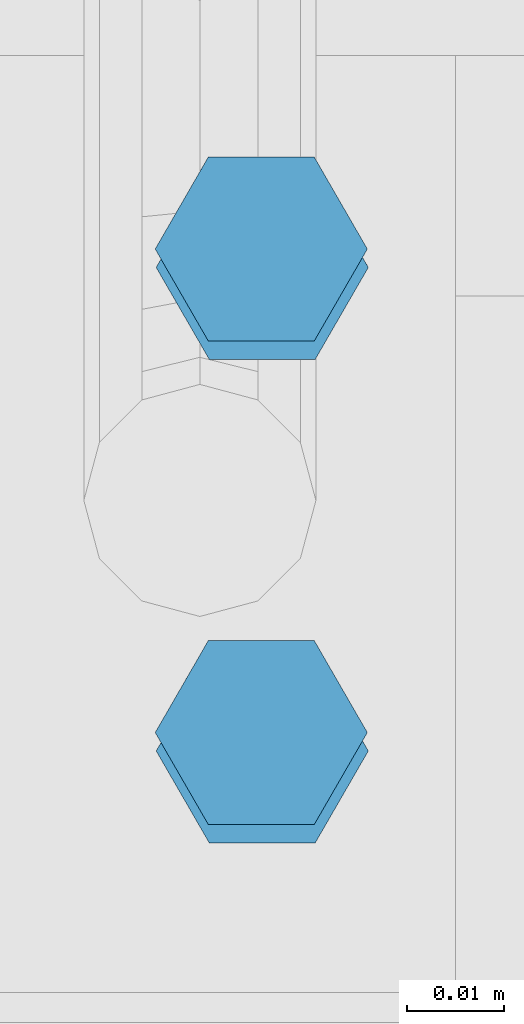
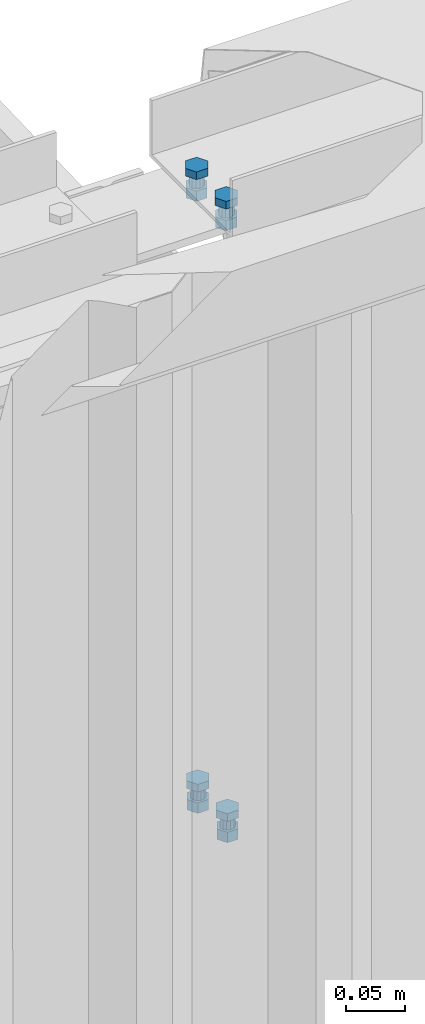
# One storey, part 15 of 18: 2 mechanical fasteners.
"""IFC2X3 building model written with IfcOpenShell, lengths in millimetres."""

import ifcopenshell
import ifcopenshell.guid

model = None  # the IFC model being written
_history = None  # IfcOwnerHistory: only IFC2X3 demands one
_inside = {}  # id of a spatial element -> (the spatial element, [elements in it])
_under = {}  # id of a project, library or spatial element -> (it, [spatial elements below it])
_declared = {}  # id of a project -> (the project, [libraries it declares])
_typed = {}  # id of a type object -> (the type object, [elements of that type])
_made_of = {}  # id of a material, layer set ... -> (it, [elements and type objects made of it])


def new_model(schema):
    """Start an empty IFC model of exactly this schema.

    Asked for "IFC4X3", IfcOpenShell would pick the latest addendum, in which some entities
    have other attributes; the version numbers below select the first issue.
    IFC2X3 requires an IfcOwnerHistory on every rooted entity: one is made here for all.
    """
    global model, _history
    if schema == "IFC4X3":
        model = ifcopenshell.file(schema_version=(4, 3, 0, 0))
    else:
        model = ifcopenshell.file(schema=schema)
    _inside.clear()
    _under.clear()
    _declared.clear()
    _typed.clear()
    _made_of.clear()
    _history = None
    if model.schema == "IFC2X3":
        org = make("IfcOrganization", Name="unknown")
        user = make(
            "IfcPersonAndOrganization",
            ThePerson=make("IfcPerson", FamilyName="unknown"),
            TheOrganization=org,
        )
        app = make(
            "IfcApplication",
            ApplicationDeveloper=org,
            Version="unknown",
            ApplicationFullName="unknown",
            ApplicationIdentifier="unknown",
        )
        _history = make(
            "IfcOwnerHistory",
            OwningUser=user,
            OwningApplication=app,
            ChangeAction="ADDED",
            CreationDate=0,
        )
    return model


def make(cls, **values):
    """One entity of the class cls with the attributes given. An attribute that is None is left unset."""
    return model.create_entity(
        cls, **{name: value for name, value in values.items() if value is not None}
    )


def rooted(cls, **values):
    """An entity with a GlobalId (a new one), such as an element, a storey or a relation."""
    return make(cls, GlobalId=ifcopenshell.guid.new(), OwnerHistory=_history, **values)


def si_unit(unit_type, name, prefix=None):
    """IfcSIUnit, for example si_unit("LENGTHUNIT", "METRE", prefix="MILLI")."""
    return make("IfcSIUnit", UnitType=unit_type, Prefix=prefix, Name=name)


def assignment(units):
    """IfcUnitAssignment: the units of a project."""
    return None if units is None else make("IfcUnitAssignment", Units=units)


def point(xyz):
    """IfcCartesianPoint."""
    return None if xyz is None else make("IfcCartesianPoint", Coordinates=xyz)


def direction(xyz):
    """IfcDirection."""
    return None if xyz is None else make("IfcDirection", DirectionRatios=xyz)


def frame(location, z_axis=None, x_axis=None):
    """IfcAxis2Placement3D, a coordinate frame: its origin and axes. An axis left out is left unset."""
    return make(
        "IfcAxis2Placement3D",
        Location=point(location),
        Axis=direction(z_axis),
        RefDirection=direction(x_axis),
    )


def origin_with_axes():
    """The frame at (0, 0, 0) with the z axis (0, 0, 1) and the x axis (1, 0, 0) written out."""
    return frame((0.0, 0.0, 0.0), z_axis=(0.0, 0.0, 1.0), x_axis=(1.0, 0.0, 0.0))


def place(relative_to, where):
    """IfcLocalPlacement: puts the frame where relative to a parent placement (None: the world)."""
    return make(
        "IfcLocalPlacement", PlacementRelTo=relative_to, RelativePlacement=where
    )


def context(
    kind, dimensions, precision=None, world=None, true_north=None, identifier=None
):
    """IfcGeometricRepresentationContext, for example the 3D "Model" context."""
    return make(
        "IfcGeometricRepresentationContext",
        ContextIdentifier=identifier,
        ContextType=kind,
        CoordinateSpaceDimension=dimensions,
        Precision=precision,
        WorldCoordinateSystem=world,
        TrueNorth=true_north,
    )


def subcontext(parent, identifier, kind, view, scale=None):
    """IfcGeometricRepresentationSubContext, for example "Body" below "Model"."""
    return make(
        "IfcGeometricRepresentationSubContext",
        ContextIdentifier=identifier,
        ContextType=kind,
        ParentContext=parent,
        TargetScale=scale,
        TargetView=view,
    )


def project(units=None, contexts=None):
    """IfcProject with its units and contexts."""
    return rooted(
        "IfcProject",
        Name="project",
        RepresentationContexts=contexts,
        UnitsInContext=assignment(units),
    )


def spatial(cls, under=None, at=None, **own):
    """A site, building, storey or space (cls), placed at a placement, below another one or the project."""
    s = rooted(cls, ObjectPlacement=at, **own)
    if under is not None:
        _under.setdefault(under.id(), (under, []))[1].append(s)
    return s


def faces_of(points, faces, orient=None, outer=None):
    """IfcFace entities. A face is a list of loops; a loop is a list of indices into points, from 0.

    orient and outer hold one flag for each loop. By default every Orientation is true, the
    first loop of a face is its IfcFaceOuterBound and the others are IfcFaceBound.
    """
    made = []
    for i, loops in enumerate(faces):
        bounds = []
        for j, loop in enumerate(loops):
            is_outer = j == 0 if outer is None else outer[i][j]
            bounds.append(
                make(
                    "IfcFaceOuterBound" if is_outer else "IfcFaceBound",
                    Bound=make("IfcPolyLoop", Polygon=[points[k] for k in loop]),
                    Orientation=True if orient is None else orient[i][j],
                )
            )
        made.append(make("IfcFace", Bounds=bounds))
    return made


def faceted_brep(points, faces, orient=None, outer=None, voids=None):
    """IfcFacetedBrep: a solid bounded by flat faces; with voids (closed shells), ...WithVoids."""
    shared = [point(p) for p in points]
    hull = make("IfcClosedShell", CfsFaces=faces_of(shared, faces, orient, outer))
    if voids is None:
        return make("IfcFacetedBrep", Outer=hull)
    return make(
        "IfcFacetedBrepWithVoids",
        Outer=hull,
        Voids=[
            make(cls, CfsFaces=faces_of(shared, fs, o, b)) for cls, fs, o, b in voids
        ],
    )


def shape(context_of_items, identifier, shape_type, items):
    """IfcShapeRepresentation: the items that make up one representation, for example the "Body"."""
    return make(
        "IfcShapeRepresentation",
        ContextOfItems=context_of_items,
        RepresentationIdentifier=identifier,
        RepresentationType=shape_type,
        Items=items,
    )


def source(mapping_origin, context_of_items, identifier, shape_type, items):
    """IfcRepresentationMap: a shape defined once, which mapped items show again and again."""
    return make(
        "IfcRepresentationMap",
        MappingOrigin=mapping_origin,
        MappedRepresentation=shape(context_of_items, identifier, shape_type, items),
    )


def transform(
    local_origin,
    x_axis=None,
    y_axis=None,
    z_axis=None,
    scale=None,
    scale2=None,
    scale3=None,
    uniform=True,
):
    """IfcCartesianTransformationOperator3D, or its non-uniform kind. x_axis, y_axis, z_axis: its Axis1, 2, 3."""
    if uniform:
        return make(
            "IfcCartesianTransformationOperator3D",
            Axis1=direction(x_axis),
            Axis2=direction(y_axis),
            LocalOrigin=point(local_origin),
            Scale=scale,
            Axis3=direction(z_axis),
        )
    return make(
        "IfcCartesianTransformationOperator3DnonUniform",
        Axis1=direction(x_axis),
        Axis2=direction(y_axis),
        LocalOrigin=point(local_origin),
        Scale=scale,
        Axis3=direction(z_axis),
        Scale2=scale2,
        Scale3=scale3,
    )


def mapped(mapping_source, mapping_target):
    """IfcMappedItem: shows the shape of a source again, moved by a transform."""
    return make(
        "IfcMappedItem", MappingSource=mapping_source, MappingTarget=mapping_target
    )


def made_of(thing, what):
    """Note that an element or type object is made of a material, layer set ...; save() writes the relation."""
    if what is not None:
        _made_of.setdefault(what.id(), (what, []))[1].append(thing)
    return thing


def type_object(cls, material=None, **own):
    """A type object (cls), such as IfcWallType, which elements share."""
    return made_of(rooted(cls, **own), material)


def element(
    cls,
    number,
    at=None,
    inside=None,
    cuts=None,
    type_object=None,
    material=None,
    context=None,
    identifier="Body",
    shape_type=None,
    held_by="IfcProductDefinitionShape",
    body=None,
    shapes=None,
    **own,
):
    """One element of the class cls, such as IfcWall. Its Tag is "e" and its number.

    at: its placement. inside: the storey or other place that contains it. cuts: it is an
    opening in that element (IfcRelVoidsElement). A single representation is given by context,
    identifier, shape_type and body (its items); several are given by shapes. held_by: the class
    of the entity that holds the representations. save() writes the other relations.
    """
    e = rooted(cls, Tag="e%d" % number, ObjectPlacement=at, **own)
    if body is not None:
        shapes = [shape(context, identifier, shape_type, body)]
    if shapes is not None:
        e.Representation = make(held_by, Representations=shapes)
    if inside is not None:
        _inside.setdefault(inside.id(), (inside, []))[1].append(e)
    if cuts is not None:
        rooted(
            "IfcRelVoidsElement", RelatingBuildingElement=cuts, RelatedOpeningElement=e
        )
    if type_object is not None:
        _typed.setdefault(type_object.id(), (type_object, []))[1].append(e)
    return made_of(e, material)


def aggregate(whole, parts):
    """IfcRelAggregates: a whole, such as a stair, and the parts it consists of."""
    return rooted("IfcRelAggregates", RelatingObject=whole, RelatedObjects=parts)


def save(model, path):
    """Write the relations noted so far, then the file.

    IfcRelAggregates (storeys below a building ...), IfcRelContainedInSpatialStructure (elements
    in a storey), IfcRelDefinesByType, IfcRelAssociatesMaterial and IfcRelDeclares: one each for
    every whole, place, type object, material and project.
    """
    for whole, parts in _under.values():
        aggregate(whole, parts)
    for where, things in _inside.values():
        rooted(
            "IfcRelContainedInSpatialStructure",
            RelatedElements=things,
            RelatingStructure=where,
        )
    for kind, things in _typed.values():
        rooted("IfcRelDefinesByType", RelatedObjects=things, RelatingType=kind)
    for what, things in _made_of.values():
        rooted("IfcRelAssociatesMaterial", RelatedObjects=things, RelatingMaterial=what)
    for by, libraries in _declared.values():
        rooted("IfcRelDeclares", RelatingContext=by, RelatedDefinitions=libraries)
    model.write(path)


model = new_model("IFC2X3")

# Units and contexts
model_context = context("Model", 3, precision=1e-05, world=origin_with_axes())
body_context = subcontext(model_context, "Body", "Model", "MODEL_VIEW")
ifc_project = project(units=[si_unit("LENGTHUNIT", "METRE", prefix="MILLI"), si_unit("AREAUNIT", "SQUARE_METRE"), si_unit("VOLUMEUNIT", "CUBIC_METRE"), si_unit("MASSUNIT", "GRAM", prefix="KILO"), si_unit("TIMEUNIT", "SECOND"), si_unit("PLANEANGLEUNIT", "RADIAN"), si_unit("SOLIDANGLEUNIT", "STERADIAN"), si_unit("THERMODYNAMICTEMPERATUREUNIT", "DEGREE_CELSIUS"), si_unit("LUMINOUSINTENSITYUNIT", "LUMEN")], contexts=[model_context])

# Site, building, storey
site_placement = place(None, origin_with_axes())
site = spatial("IfcSite", under=ifc_project, at=site_placement, Name="Undefined", CompositionType="ELEMENT")
building_placement = place(site_placement, origin_with_axes())
building = spatial("IfcBuilding", under=site, at=building_placement, Name="Undefined", CompositionType="ELEMENT")
storey_placement = place(building_placement, origin_with_axes())
storey = spatial("IfcBuildingStorey", under=building, at=storey_placement, Name="Undefined", CompositionType="ELEMENT", Elevation=0.0)

# Mechanical fasteners
mechanical_fastener_type = type_object("IfcMechanicalFastenerType", Name="Bolt assembly")
shared_shape_1 = source(origin_with_axes(), body_context, "Body", "Brep", [
    faceted_brep([(10.96965511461, -17.5333220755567, 0.0), (5.484827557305, -17.5333220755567, 9.50000000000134), (-5.484827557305, -17.5333220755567, 9.50000000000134), (-10.96965511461, -17.5333220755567, 0.0), (-5.484827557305, -17.5333220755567, -9.50000000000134), (5.484827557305, -17.5333220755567, -9.50000000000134), (5.484827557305, -9.53332207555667, -9.50000000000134), (-5.484827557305, -9.53332207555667, -9.50000000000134), (-10.96965511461, -9.53332207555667, 0.0), (-5.484827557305, -9.53332207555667, 9.50000000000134), (5.484827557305, -9.53332207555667, 9.50000000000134), (10.96965511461, -9.53332207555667, 0.0), (6.0, -9.53332207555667, 0.0), (5.31273615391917, -9.53332207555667, 2.78833903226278), (3.40838848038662, -9.53332207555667, 4.93790319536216), (0.723220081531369, -9.53332207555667, 5.95625324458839), (-2.12762932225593, -9.53332207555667, 5.61009745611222), (-4.49106448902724, -9.53332207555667, 3.97873594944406), (-5.82565090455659, -9.53332207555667, 1.43589398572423), (-5.82565090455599, -9.53332207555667, -1.43589398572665), (-4.49106448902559, -9.53332207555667, -3.97873594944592), (-2.12762932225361, -9.53332207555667, -5.6100974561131), (0.723220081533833, -9.53332207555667, -5.95625324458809), (3.40838848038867, -9.53332207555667, -4.93790319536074), (3.40838848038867, 15.4666779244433, -4.93790319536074), (0.723220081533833, 15.4666779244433, -5.95625324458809), (-2.12762932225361, 15.4666779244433, -5.6100974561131), (-4.49106448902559, 15.4666779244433, -3.97873594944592), (-5.82565090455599, 15.4666779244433, -1.43589398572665), (-5.82565090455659, 15.4666779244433, 1.43589398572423), (-4.49106448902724, 15.4666779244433, 3.97873594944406), (-2.12762932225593, 15.4666779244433, 5.61009745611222), (0.723220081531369, 15.4666779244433, 5.95625324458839), (3.40838848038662, 15.4666779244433, 4.93790319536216), (5.31273615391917, 15.4666779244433, 2.78833903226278), (6.0, 15.4666779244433, 0.0), (10.39230484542, 1.99943250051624, 0.0), (5.19615242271, 1.99943250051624, 9.00000000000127), (-5.19615242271, 1.99943250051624, 9.00000000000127), (-10.39230484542, 1.99943250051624, 0.0), (-5.19615242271, 1.99943250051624, -9.00000000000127), (5.19615242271, 1.99943250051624, -9.00000000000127), (5.19615242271, 12.7994326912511, -9.00000000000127), (-5.19615242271, 12.7994326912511, -9.00000000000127), (-10.39230484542, 12.7994326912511, 0.0), (-5.19615242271, 12.7994326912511, 9.00000000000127), (5.19615242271, 12.7994326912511, 9.00000000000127), (10.39230484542, 12.7994326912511, 0.0)], [[[0, 1, 2, 3, 4, 5]], [[6, 7, 8, 9, 10, 11]], [[0, 11, 10, 1]], [[1, 10, 9, 2]], [[2, 9, 8, 3]], [[3, 8, 7, 4]], [[4, 7, 6, 5]], [[5, 6, 11, 0]], [[12, 13, 14, 15, 16, 17, 18, 19, 20, 21, 22, 23]], [[24, 25, 26, 27, 28, 29, 30, 31, 32, 33, 34, 35]], [[12, 35, 34, 13]], [[13, 34, 33, 14]], [[14, 33, 32, 15]], [[15, 32, 31, 16]], [[16, 31, 30, 17]], [[17, 30, 29, 18]], [[18, 29, 28, 19]], [[19, 28, 27, 20]], [[20, 27, 26, 21]], [[21, 26, 25, 22]], [[22, 25, 24, 23]], [[23, 24, 35, 12]], [[36, 37, 38, 39, 40, 41]], [[42, 43, 44, 45, 46, 47]], [[36, 47, 46, 37]], [[37, 46, 45, 38]], [[38, 45, 44, 39]], [[39, 44, 43, 40]], [[40, 43, 42, 41]], [[41, 42, 47, 36]]]),
    faceted_brep([(7.0, -6.10056750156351, 0.0), (6.19819217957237, -6.10056750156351, 3.25306220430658), (3.97645322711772, -6.10056750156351, 5.76088706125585), (0.843756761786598, -6.10056750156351, 6.94896211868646), (-2.48223420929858, -6.10056750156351, 6.54511369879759), (-5.23957523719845, -6.10056750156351, 4.64185860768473), (-6.79659272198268, -6.10056750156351, 1.67520965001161), (-6.79659272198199, -6.10056750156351, -1.67520965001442), (-5.23957523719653, -6.10056750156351, -4.6418586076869), (-2.48223420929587, -6.10056750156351, -6.54511369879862), (0.843756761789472, -6.10056750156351, -6.94896211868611), (3.97645322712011, -6.10056750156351, -5.7608870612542), (3.97645322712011, 1.99943250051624, -5.7608870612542), (0.843756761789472, 1.99943250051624, -6.94896211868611), (-2.48223420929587, 1.99943250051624, -6.54511369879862), (-5.23957523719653, 1.99943250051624, -4.6418586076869), (-6.79659272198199, 1.99943250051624, -1.67520965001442), (-6.79659272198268, 1.99943250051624, 1.67520965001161), (-5.23957523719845, 1.99943250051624, 4.64185860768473), (-2.48223420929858, 1.99943250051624, 6.54511369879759), (0.843756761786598, 1.99943250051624, 6.94896211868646), (3.97645322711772, 1.99943250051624, 5.76088706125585), (6.19819217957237, 1.99943250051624, 3.25306220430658), (7.0, 1.99943250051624, 0.0), (7.0, -9.43332207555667, 0.0), (6.19819217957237, -9.43332207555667, 3.25306220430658), (3.97645322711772, -9.43332207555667, 5.76088706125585), (0.843756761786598, -9.43332207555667, 6.94896211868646), (-2.48223420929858, -9.43332207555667, 6.54511369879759), (-5.23957523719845, -9.43332207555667, 4.64185860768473), (-6.79659272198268, -9.43332207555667, 1.67520965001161), (-6.79659272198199, -9.43332207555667, -1.67520965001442), (-5.23957523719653, -9.43332207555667, -4.6418586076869), (-2.48223420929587, -9.43332207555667, -6.54511369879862), (0.843756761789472, -9.43332207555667, -6.94896211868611), (3.97645322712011, -9.43332207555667, -5.7608870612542), (3.97645322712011, -5.43332207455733, -5.7608870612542), (0.843756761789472, -5.43332207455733, -6.94896211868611), (-2.48223420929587, -5.43332207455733, -6.54511369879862), (-5.23957523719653, -5.43332207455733, -4.6418586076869), (-6.79659272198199, -5.43332207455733, -1.67520965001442), (-6.79659272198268, -5.43332207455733, 1.67520965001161), (-5.23957523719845, -5.43332207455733, 4.64185860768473), (-2.48223420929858, -5.43332207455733, 6.54511369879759), (0.843756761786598, -5.43332207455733, 6.94896211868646), (3.97645322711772, -5.43332207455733, 5.76088706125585), (6.19819217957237, -5.43332207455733, 3.25306220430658), (7.0, -5.43332207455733, 0.0)], [[[0, 1, 2, 3, 4, 5, 6, 7, 8, 9, 10, 11]], [[12, 13, 14, 15, 16, 17, 18, 19, 20, 21, 22, 23]], [[0, 23, 22, 1]], [[1, 22, 21, 2]], [[2, 21, 20, 3]], [[3, 20, 19, 4]], [[4, 19, 18, 5]], [[5, 18, 17, 6]], [[6, 17, 16, 7]], [[7, 16, 15, 8]], [[8, 15, 14, 9]], [[9, 14, 13, 10]], [[10, 13, 12, 11]], [[11, 12, 23, 0]], [[24, 25, 26, 27, 28, 29, 30, 31, 32, 33, 34, 35]], [[36, 37, 38, 39, 40, 41, 42, 43, 44, 45, 46, 47]], [[24, 47, 46, 25]], [[25, 46, 45, 26]], [[26, 45, 44, 27]], [[27, 44, 43, 28]], [[28, 43, 42, 29]], [[29, 42, 41, 30]], [[30, 41, 40, 31]], [[31, 40, 39, 32]], [[32, 39, 38, 33]], [[33, 38, 37, 34]], [[34, 37, 36, 35]], [[35, 36, 47, 24]]]),
])
shared_shape_2 = source(origin_with_axes(), body_context, "Body", "Brep", [
    faceted_brep([(10.96965511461, -17.5333220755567, 0.0), (5.484827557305, -17.5333220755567, 9.50000000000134), (-5.484827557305, -17.5333220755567, 9.50000000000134), (-10.96965511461, -17.5333220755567, 0.0), (-5.484827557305, -17.5333220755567, -9.50000000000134), (5.484827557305, -17.5333220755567, -9.50000000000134), (5.484827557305, -9.53332207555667, -9.50000000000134), (-5.484827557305, -9.53332207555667, -9.50000000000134), (-10.96965511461, -9.53332207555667, 0.0), (-5.484827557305, -9.53332207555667, 9.50000000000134), (5.484827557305, -9.53332207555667, 9.50000000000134), (10.96965511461, -9.53332207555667, 0.0), (6.0, -9.53332207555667, 0.0), (5.31273615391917, -9.53332207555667, 2.78833903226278), (3.40838848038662, -9.53332207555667, 4.93790319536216), (0.723220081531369, -9.53332207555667, 5.95625324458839), (-2.12762932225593, -9.53332207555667, 5.61009745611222), (-4.49106448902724, -9.53332207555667, 3.97873594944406), (-5.82565090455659, -9.53332207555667, 1.43589398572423), (-5.82565090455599, -9.53332207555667, -1.43589398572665), (-4.49106448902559, -9.53332207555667, -3.97873594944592), (-2.12762932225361, -9.53332207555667, -5.6100974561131), (0.723220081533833, -9.53332207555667, -5.95625324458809), (3.40838848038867, -9.53332207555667, -4.93790319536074), (3.40838848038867, 15.4666779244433, -4.93790319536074), (0.723220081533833, 15.4666779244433, -5.95625324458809), (-2.12762932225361, 15.4666779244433, -5.6100974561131), (-4.49106448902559, 15.4666779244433, -3.97873594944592), (-5.82565090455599, 15.4666779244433, -1.43589398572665), (-5.82565090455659, 15.4666779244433, 1.43589398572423), (-4.49106448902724, 15.4666779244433, 3.97873594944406), (-2.12762932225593, 15.4666779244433, 5.61009745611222), (0.723220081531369, 15.4666779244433, 5.95625324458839), (3.40838848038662, 15.4666779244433, 4.93790319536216), (5.31273615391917, 15.4666779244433, 2.78833903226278), (6.0, 15.4666779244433, 0.0), (10.39230484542, 1.99943250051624, 0.0), (5.19615242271, 1.99943250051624, 9.00000000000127), (-5.19615242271, 1.99943250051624, 9.00000000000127), (-10.39230484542, 1.99943250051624, 0.0), (-5.19615242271, 1.99943250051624, -9.00000000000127), (5.19615242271, 1.99943250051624, -9.00000000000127), (5.19615242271, 12.7994326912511, -9.00000000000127), (-5.19615242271, 12.7994326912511, -9.00000000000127), (-10.39230484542, 12.7994326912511, 0.0), (-5.19615242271, 12.7994326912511, 9.00000000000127), (5.19615242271, 12.7994326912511, 9.00000000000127), (10.39230484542, 12.7994326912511, 0.0)], [[[0, 1, 2, 3, 4, 5]], [[6, 7, 8, 9, 10, 11]], [[0, 11, 10, 1]], [[1, 10, 9, 2]], [[2, 9, 8, 3]], [[3, 8, 7, 4]], [[4, 7, 6, 5]], [[5, 6, 11, 0]], [[12, 13, 14, 15, 16, 17, 18, 19, 20, 21, 22, 23]], [[24, 25, 26, 27, 28, 29, 30, 31, 32, 33, 34, 35]], [[12, 35, 34, 13]], [[13, 34, 33, 14]], [[14, 33, 32, 15]], [[15, 32, 31, 16]], [[16, 31, 30, 17]], [[17, 30, 29, 18]], [[18, 29, 28, 19]], [[19, 28, 27, 20]], [[20, 27, 26, 21]], [[21, 26, 25, 22]], [[22, 25, 24, 23]], [[23, 24, 35, 12]], [[36, 37, 38, 39, 40, 41]], [[42, 43, 44, 45, 46, 47]], [[36, 47, 46, 37]], [[37, 46, 45, 38]], [[38, 45, 44, 39]], [[39, 44, 43, 40]], [[40, 43, 42, 41]], [[41, 42, 47, 36]]]),
    faceted_brep([(7.0, -6.10056750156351, 0.0), (6.19819217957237, -6.10056750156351, 3.25306220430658), (3.97645322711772, -6.10056750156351, 5.76088706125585), (0.843756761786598, -6.10056750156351, 6.94896211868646), (-2.48223420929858, -6.10056750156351, 6.54511369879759), (-5.23957523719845, -6.10056750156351, 4.64185860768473), (-6.79659272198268, -6.10056750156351, 1.67520965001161), (-6.79659272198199, -6.10056750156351, -1.67520965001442), (-5.23957523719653, -6.10056750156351, -4.6418586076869), (-2.48223420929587, -6.10056750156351, -6.54511369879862), (0.843756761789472, -6.10056750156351, -6.94896211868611), (3.97645322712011, -6.10056750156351, -5.7608870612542), (3.97645322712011, 1.99943250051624, -5.7608870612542), (0.843756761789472, 1.99943250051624, -6.94896211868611), (-2.48223420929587, 1.99943250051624, -6.54511369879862), (-5.23957523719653, 1.99943250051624, -4.6418586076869), (-6.79659272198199, 1.99943250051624, -1.67520965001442), (-6.79659272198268, 1.99943250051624, 1.67520965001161), (-5.23957523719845, 1.99943250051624, 4.64185860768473), (-2.48223420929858, 1.99943250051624, 6.54511369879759), (0.843756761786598, 1.99943250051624, 6.94896211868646), (3.97645322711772, 1.99943250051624, 5.76088706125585), (6.19819217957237, 1.99943250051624, 3.25306220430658), (7.0, 1.99943250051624, 0.0), (7.0, -9.43332207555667, 0.0), (6.19819217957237, -9.43332207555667, 3.25306220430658), (3.97645322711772, -9.43332207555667, 5.76088706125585), (0.843756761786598, -9.43332207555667, 6.94896211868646), (-2.48223420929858, -9.43332207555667, 6.54511369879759), (-5.23957523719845, -9.43332207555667, 4.64185860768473), (-6.79659272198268, -9.43332207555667, 1.67520965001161), (-6.79659272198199, -9.43332207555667, -1.67520965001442), (-5.23957523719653, -9.43332207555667, -4.6418586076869), (-2.48223420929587, -9.43332207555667, -6.54511369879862), (0.843756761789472, -9.43332207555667, -6.94896211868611), (3.97645322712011, -9.43332207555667, -5.7608870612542), (3.97645322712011, -5.43332207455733, -5.7608870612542), (0.843756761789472, -5.43332207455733, -6.94896211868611), (-2.48223420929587, -5.43332207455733, -6.54511369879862), (-5.23957523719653, -5.43332207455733, -4.6418586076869), (-6.79659272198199, -5.43332207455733, -1.67520965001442), (-6.79659272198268, -5.43332207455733, 1.67520965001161), (-5.23957523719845, -5.43332207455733, 4.64185860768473), (-2.48223420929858, -5.43332207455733, 6.54511369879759), (0.843756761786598, -5.43332207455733, 6.94896211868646), (3.97645322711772, -5.43332207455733, 5.76088706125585), (6.19819217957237, -5.43332207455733, 3.25306220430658), (7.0, -5.43332207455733, 0.0)], [[[0, 1, 2, 3, 4, 5, 6, 7, 8, 9, 10, 11]], [[12, 13, 14, 15, 16, 17, 18, 19, 20, 21, 22, 23]], [[0, 23, 22, 1]], [[1, 22, 21, 2]], [[2, 21, 20, 3]], [[3, 20, 19, 4]], [[4, 19, 18, 5]], [[5, 18, 17, 6]], [[6, 17, 16, 7]], [[7, 16, 15, 8]], [[8, 15, 14, 9]], [[9, 14, 13, 10]], [[10, 13, 12, 11]], [[11, 12, 23, 0]], [[24, 25, 26, 27, 28, 29, 30, 31, 32, 33, 34, 35]], [[36, 37, 38, 39, 40, 41, 42, 43, 44, 45, 46, 47]], [[24, 47, 46, 25]], [[25, 46, 45, 26]], [[26, 45, 44, 27]], [[27, 44, 43, 28]], [[28, 43, 42, 29]], [[29, 42, 41, 30]], [[30, 41, 40, 31]], [[31, 40, 39, 32]], [[32, 39, 38, 33]], [[33, 38, 37, 34]], [[34, 37, 36, 35]], [[35, 36, 47, 24]]]),
])
mechanical_fastener_1_placement = place(storey_placement, frame((66.4493100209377, -156.908176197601, 5894.01718311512), z_axis=(9.15605459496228e-14, -0.99999999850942, -5.46000047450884e-05), x_axis=(-1.0, 0.0, 0.0)))
element("IfcMechanicalFastener", 1, at=mechanical_fastener_1_placement, inside=storey, type_object=mechanical_fastener_type, Name="Bolt assembly", NominalDiameter=12.0, NominalLength=30.0, context=body_context, shape_type="MappedRepresentation", body=[
    mapped(shared_shape_1, transform((0.0, 0.0, 25.0))),
    mapped(shared_shape_2, transform((0.0, 0.0, -25.0))),
])
shared_shape_3 = source(origin_with_axes(), body_context, "Body", "Brep", [
    faceted_brep([(10.96965511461, -18.0005665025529, 0.0), (5.484827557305, -18.0005665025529, 9.50000000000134), (-5.484827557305, -18.0005665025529, 9.50000000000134), (-10.96965511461, -18.0005665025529, 0.0), (-5.484827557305, -18.0005665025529, -9.50000000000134), (5.484827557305, -18.0005665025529, -9.50000000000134), (5.484827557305, -10.0005665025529, -9.50000000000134), (-5.484827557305, -10.0005665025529, -9.50000000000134), (-10.96965511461, -10.0005665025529, 0.0), (-5.484827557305, -10.0005665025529, 9.50000000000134), (5.484827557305, -10.0005665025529, 9.50000000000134), (10.96965511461, -10.0005665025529, 0.0), (6.0, -10.0005665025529, 0.0), (5.31273615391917, -10.0005665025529, 2.78833903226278), (3.40838848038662, -10.0005665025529, 4.93790319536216), (0.723220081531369, -10.0005665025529, 5.95625324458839), (-2.12762932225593, -10.0005665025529, 5.61009745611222), (-4.49106448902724, -10.0005665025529, 3.97873594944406), (-5.82565090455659, -10.0005665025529, 1.43589398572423), (-5.82565090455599, -10.0005665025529, -1.43589398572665), (-4.49106448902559, -10.0005665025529, -3.97873594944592), (-2.12762932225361, -10.0005665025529, -5.6100974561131), (0.723220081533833, -10.0005665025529, -5.95625324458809), (3.40838848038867, -10.0005665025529, -4.93790319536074), (3.40838848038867, 14.9994334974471, -4.93790319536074), (0.723220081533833, 14.9994334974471, -5.95625324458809), (-2.12762932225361, 14.9994334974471, -5.6100974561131), (-4.49106448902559, 14.9994334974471, -3.97873594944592), (-5.82565090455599, 14.9994334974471, -1.43589398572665), (-5.82565090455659, 14.9994334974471, 1.43589398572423), (-4.49106448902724, 14.9994334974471, 3.97873594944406), (-2.12762932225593, 14.9994334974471, 5.61009745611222), (0.723220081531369, 14.9994334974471, 5.95625324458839), (3.40838848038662, 14.9994334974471, 4.93790319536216), (5.31273615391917, 14.9994334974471, 2.78833903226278), (6.0, 14.9994334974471, 0.0), (10.39230484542, 1.99943250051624, 0.0), (5.19615242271, 1.99943250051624, 9.00000000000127), (-5.19615242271, 1.99943250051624, 9.00000000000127), (-10.39230484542, 1.99943250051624, 0.0), (-5.19615242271, 1.99943250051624, -9.00000000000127), (5.19615242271, 1.99943250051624, -9.00000000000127), (5.19615242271, 12.7994326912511, -9.00000000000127), (-5.19615242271, 12.7994326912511, -9.00000000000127), (-10.39230484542, 12.7994326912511, 0.0), (-5.19615242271, 12.7994326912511, 9.00000000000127), (5.19615242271, 12.7994326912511, 9.00000000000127), (10.39230484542, 12.7994326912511, 0.0)], [[[0, 1, 2, 3, 4, 5]], [[6, 7, 8, 9, 10, 11]], [[0, 11, 10, 1]], [[1, 10, 9, 2]], [[2, 9, 8, 3]], [[3, 8, 7, 4]], [[4, 7, 6, 5]], [[5, 6, 11, 0]], [[12, 13, 14, 15, 16, 17, 18, 19, 20, 21, 22, 23]], [[24, 25, 26, 27, 28, 29, 30, 31, 32, 33, 34, 35]], [[12, 35, 34, 13]], [[13, 34, 33, 14]], [[14, 33, 32, 15]], [[15, 32, 31, 16]], [[16, 31, 30, 17]], [[17, 30, 29, 18]], [[18, 29, 28, 19]], [[19, 28, 27, 20]], [[20, 27, 26, 21]], [[21, 26, 25, 22]], [[22, 25, 24, 23]], [[23, 24, 35, 12]], [[36, 37, 38, 39, 40, 41]], [[42, 43, 44, 45, 46, 47]], [[36, 47, 46, 37]], [[37, 46, 45, 38]], [[38, 45, 44, 39]], [[39, 44, 43, 40]], [[40, 43, 42, 41]], [[41, 42, 47, 36]]]),
    faceted_brep([(7.0, -6.10056750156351, 0.0), (6.19819217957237, -6.10056750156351, 3.25306220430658), (3.97645322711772, -6.10056750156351, 5.76088706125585), (0.843756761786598, -6.10056750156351, 6.94896211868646), (-2.48223420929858, -6.10056750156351, 6.54511369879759), (-5.23957523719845, -6.10056750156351, 4.64185860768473), (-6.79659272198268, -6.10056750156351, 1.67520965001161), (-6.79659272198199, -6.10056750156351, -1.67520965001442), (-5.23957523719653, -6.10056750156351, -4.6418586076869), (-2.48223420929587, -6.10056750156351, -6.54511369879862), (0.843756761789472, -6.10056750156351, -6.94896211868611), (3.97645322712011, -6.10056750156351, -5.7608870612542), (3.97645322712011, 1.99943250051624, -5.7608870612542), (0.843756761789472, 1.99943250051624, -6.94896211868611), (-2.48223420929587, 1.99943250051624, -6.54511369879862), (-5.23957523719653, 1.99943250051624, -4.6418586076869), (-6.79659272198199, 1.99943250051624, -1.67520965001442), (-6.79659272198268, 1.99943250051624, 1.67520965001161), (-5.23957523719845, 1.99943250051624, 4.64185860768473), (-2.48223420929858, 1.99943250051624, 6.54511369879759), (0.843756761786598, 1.99943250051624, 6.94896211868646), (3.97645322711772, 1.99943250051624, 5.76088706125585), (6.19819217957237, 1.99943250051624, 3.25306220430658), (7.0, 1.99943250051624, 0.0), (7.0, -9.90056650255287, 0.0), (6.19819217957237, -9.90056650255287, 3.25306220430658), (3.97645322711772, -9.90056650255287, 5.76088706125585), (0.843756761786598, -9.90056650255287, 6.94896211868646), (-2.48223420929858, -9.90056650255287, 6.54511369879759), (-5.23957523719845, -9.90056650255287, 4.64185860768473), (-6.79659272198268, -9.90056650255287, 1.67520965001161), (-6.79659272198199, -9.90056650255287, -1.67520965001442), (-5.23957523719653, -9.90056650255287, -4.6418586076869), (-2.48223420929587, -9.90056650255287, -6.54511369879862), (0.843756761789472, -9.90056650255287, -6.94896211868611), (3.97645322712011, -9.90056650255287, -5.7608870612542), (3.97645322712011, -5.90056650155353, -5.7608870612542), (0.843756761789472, -5.90056650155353, -6.94896211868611), (-2.48223420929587, -5.90056650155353, -6.54511369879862), (-5.23957523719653, -5.90056650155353, -4.6418586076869), (-6.79659272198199, -5.90056650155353, -1.67520965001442), (-6.79659272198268, -5.90056650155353, 1.67520965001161), (-5.23957523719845, -5.90056650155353, 4.64185860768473), (-2.48223420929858, -5.90056650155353, 6.54511369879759), (0.843756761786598, -5.90056650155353, 6.94896211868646), (3.97645322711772, -5.90056650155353, 5.76088706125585), (6.19819217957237, -5.90056650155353, 3.25306220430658), (7.0, -5.90056650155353, 0.0)], [[[0, 1, 2, 3, 4, 5, 6, 7, 8, 9, 10, 11]], [[12, 13, 14, 15, 16, 17, 18, 19, 20, 21, 22, 23]], [[0, 23, 22, 1]], [[1, 22, 21, 2]], [[2, 21, 20, 3]], [[3, 20, 19, 4]], [[4, 19, 18, 5]], [[5, 18, 17, 6]], [[6, 17, 16, 7]], [[7, 16, 15, 8]], [[8, 15, 14, 9]], [[9, 14, 13, 10]], [[10, 13, 12, 11]], [[11, 12, 23, 0]], [[24, 25, 26, 27, 28, 29, 30, 31, 32, 33, 34, 35]], [[36, 37, 38, 39, 40, 41, 42, 43, 44, 45, 46, 47]], [[24, 47, 46, 25]], [[25, 46, 45, 26]], [[26, 45, 44, 27]], [[27, 44, 43, 28]], [[28, 43, 42, 29]], [[29, 42, 41, 30]], [[30, 41, 40, 31]], [[31, 40, 39, 32]], [[32, 39, 38, 33]], [[33, 38, 37, 34]], [[34, 37, 36, 35]], [[35, 36, 47, 24]]]),
])
shared_shape_4 = source(origin_with_axes(), body_context, "Body", "Brep", [
    faceted_brep([(10.96965511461, -18.0005665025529, 0.0), (5.484827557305, -18.0005665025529, 9.50000000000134), (-5.484827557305, -18.0005665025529, 9.50000000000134), (-10.96965511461, -18.0005665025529, 0.0), (-5.484827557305, -18.0005665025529, -9.50000000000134), (5.484827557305, -18.0005665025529, -9.50000000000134), (5.484827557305, -10.0005665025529, -9.50000000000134), (-5.484827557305, -10.0005665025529, -9.50000000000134), (-10.96965511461, -10.0005665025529, 0.0), (-5.484827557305, -10.0005665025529, 9.50000000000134), (5.484827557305, -10.0005665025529, 9.50000000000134), (10.96965511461, -10.0005665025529, 0.0), (6.0, -10.0005665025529, 0.0), (5.31273615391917, -10.0005665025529, 2.78833903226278), (3.40838848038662, -10.0005665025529, 4.93790319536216), (0.723220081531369, -10.0005665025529, 5.95625324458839), (-2.12762932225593, -10.0005665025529, 5.61009745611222), (-4.49106448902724, -10.0005665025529, 3.97873594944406), (-5.82565090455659, -10.0005665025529, 1.43589398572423), (-5.82565090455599, -10.0005665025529, -1.43589398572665), (-4.49106448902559, -10.0005665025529, -3.97873594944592), (-2.12762932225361, -10.0005665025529, -5.6100974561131), (0.723220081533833, -10.0005665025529, -5.95625324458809), (3.40838848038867, -10.0005665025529, -4.93790319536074), (3.40838848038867, 14.9994334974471, -4.93790319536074), (0.723220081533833, 14.9994334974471, -5.95625324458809), (-2.12762932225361, 14.9994334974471, -5.6100974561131), (-4.49106448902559, 14.9994334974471, -3.97873594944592), (-5.82565090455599, 14.9994334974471, -1.43589398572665), (-5.82565090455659, 14.9994334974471, 1.43589398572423), (-4.49106448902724, 14.9994334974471, 3.97873594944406), (-2.12762932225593, 14.9994334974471, 5.61009745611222), (0.723220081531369, 14.9994334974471, 5.95625324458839), (3.40838848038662, 14.9994334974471, 4.93790319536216), (5.31273615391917, 14.9994334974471, 2.78833903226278), (6.0, 14.9994334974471, 0.0), (10.39230484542, 1.99943250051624, 0.0), (5.19615242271, 1.99943250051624, 9.00000000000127), (-5.19615242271, 1.99943250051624, 9.00000000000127), (-10.39230484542, 1.99943250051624, 0.0), (-5.19615242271, 1.99943250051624, -9.00000000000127), (5.19615242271, 1.99943250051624, -9.00000000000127), (5.19615242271, 12.7994326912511, -9.00000000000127), (-5.19615242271, 12.7994326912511, -9.00000000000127), (-10.39230484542, 12.7994326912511, 0.0), (-5.19615242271, 12.7994326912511, 9.00000000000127), (5.19615242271, 12.7994326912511, 9.00000000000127), (10.39230484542, 12.7994326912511, 0.0)], [[[0, 1, 2, 3, 4, 5]], [[6, 7, 8, 9, 10, 11]], [[0, 11, 10, 1]], [[1, 10, 9, 2]], [[2, 9, 8, 3]], [[3, 8, 7, 4]], [[4, 7, 6, 5]], [[5, 6, 11, 0]], [[12, 13, 14, 15, 16, 17, 18, 19, 20, 21, 22, 23]], [[24, 25, 26, 27, 28, 29, 30, 31, 32, 33, 34, 35]], [[12, 35, 34, 13]], [[13, 34, 33, 14]], [[14, 33, 32, 15]], [[15, 32, 31, 16]], [[16, 31, 30, 17]], [[17, 30, 29, 18]], [[18, 29, 28, 19]], [[19, 28, 27, 20]], [[20, 27, 26, 21]], [[21, 26, 25, 22]], [[22, 25, 24, 23]], [[23, 24, 35, 12]], [[36, 37, 38, 39, 40, 41]], [[42, 43, 44, 45, 46, 47]], [[36, 47, 46, 37]], [[37, 46, 45, 38]], [[38, 45, 44, 39]], [[39, 44, 43, 40]], [[40, 43, 42, 41]], [[41, 42, 47, 36]]]),
    faceted_brep([(7.0, -6.10056750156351, 0.0), (6.19819217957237, -6.10056750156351, 3.25306220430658), (3.97645322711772, -6.10056750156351, 5.76088706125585), (0.843756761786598, -6.10056750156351, 6.94896211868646), (-2.48223420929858, -6.10056750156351, 6.54511369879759), (-5.23957523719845, -6.10056750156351, 4.64185860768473), (-6.79659272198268, -6.10056750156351, 1.67520965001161), (-6.79659272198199, -6.10056750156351, -1.67520965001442), (-5.23957523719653, -6.10056750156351, -4.6418586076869), (-2.48223420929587, -6.10056750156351, -6.54511369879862), (0.843756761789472, -6.10056750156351, -6.94896211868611), (3.97645322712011, -6.10056750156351, -5.7608870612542), (3.97645322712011, 1.99943250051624, -5.7608870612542), (0.843756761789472, 1.99943250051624, -6.94896211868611), (-2.48223420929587, 1.99943250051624, -6.54511369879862), (-5.23957523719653, 1.99943250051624, -4.6418586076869), (-6.79659272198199, 1.99943250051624, -1.67520965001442), (-6.79659272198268, 1.99943250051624, 1.67520965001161), (-5.23957523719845, 1.99943250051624, 4.64185860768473), (-2.48223420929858, 1.99943250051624, 6.54511369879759), (0.843756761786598, 1.99943250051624, 6.94896211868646), (3.97645322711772, 1.99943250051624, 5.76088706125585), (6.19819217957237, 1.99943250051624, 3.25306220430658), (7.0, 1.99943250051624, 0.0), (7.0, -9.90056650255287, 0.0), (6.19819217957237, -9.90056650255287, 3.25306220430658), (3.97645322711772, -9.90056650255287, 5.76088706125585), (0.843756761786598, -9.90056650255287, 6.94896211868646), (-2.48223420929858, -9.90056650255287, 6.54511369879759), (-5.23957523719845, -9.90056650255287, 4.64185860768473), (-6.79659272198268, -9.90056650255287, 1.67520965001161), (-6.79659272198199, -9.90056650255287, -1.67520965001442), (-5.23957523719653, -9.90056650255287, -4.6418586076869), (-2.48223420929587, -9.90056650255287, -6.54511369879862), (0.843756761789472, -9.90056650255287, -6.94896211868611), (3.97645322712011, -9.90056650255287, -5.7608870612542), (3.97645322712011, -5.90056650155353, -5.7608870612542), (0.843756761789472, -5.90056650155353, -6.94896211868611), (-2.48223420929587, -5.90056650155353, -6.54511369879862), (-5.23957523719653, -5.90056650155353, -4.6418586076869), (-6.79659272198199, -5.90056650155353, -1.67520965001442), (-6.79659272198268, -5.90056650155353, 1.67520965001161), (-5.23957523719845, -5.90056650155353, 4.64185860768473), (-2.48223420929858, -5.90056650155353, 6.54511369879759), (0.843756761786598, -5.90056650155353, 6.94896211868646), (3.97645322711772, -5.90056650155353, 5.76088706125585), (6.19819217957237, -5.90056650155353, 3.25306220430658), (7.0, -5.90056650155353, 0.0)], [[[0, 1, 2, 3, 4, 5, 6, 7, 8, 9, 10, 11]], [[12, 13, 14, 15, 16, 17, 18, 19, 20, 21, 22, 23]], [[0, 23, 22, 1]], [[1, 22, 21, 2]], [[2, 21, 20, 3]], [[3, 20, 19, 4]], [[4, 19, 18, 5]], [[5, 18, 17, 6]], [[6, 17, 16, 7]], [[7, 16, 15, 8]], [[8, 15, 14, 9]], [[9, 14, 13, 10]], [[10, 13, 12, 11]], [[11, 12, 23, 0]], [[24, 25, 26, 27, 28, 29, 30, 31, 32, 33, 34, 35]], [[36, 37, 38, 39, 40, 41, 42, 43, 44, 45, 46, 47]], [[24, 47, 46, 25]], [[25, 46, 45, 26]], [[26, 45, 44, 27]], [[27, 44, 43, 28]], [[28, 43, 42, 29]], [[29, 42, 41, 30]], [[30, 41, 40, 31]], [[31, 40, 39, 32]], [[32, 39, 38, 33]], [[33, 38, 37, 34]], [[34, 37, 36, 35]], [[35, 36, 47, 24]]]),
])
mechanical_fastener_2_placement = place(storey_placement, frame((66.3500000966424, -154.99980134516, 6524.00000000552), z_axis=(9.15605459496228e-14, -0.99999999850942, -5.46000047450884e-05), x_axis=(-1.0, 0.0, 0.0)))
element("IfcMechanicalFastener", 2, at=mechanical_fastener_2_placement, inside=storey, type_object=mechanical_fastener_type, Name="Bolt assembly", NominalDiameter=12.0, NominalLength=30.0, context=body_context, shape_type="MappedRepresentation", body=[
    mapped(shared_shape_3, transform((0.0, 0.0, 25.0))),
    mapped(shared_shape_4, transform((0.0, 0.0, -25.0))),
])

save(model, "model.ifc")
